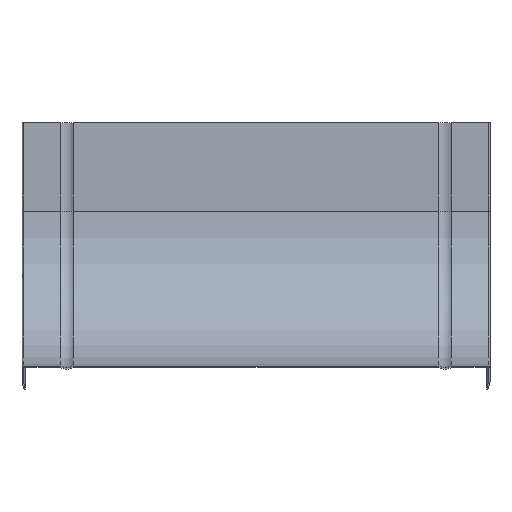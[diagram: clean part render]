
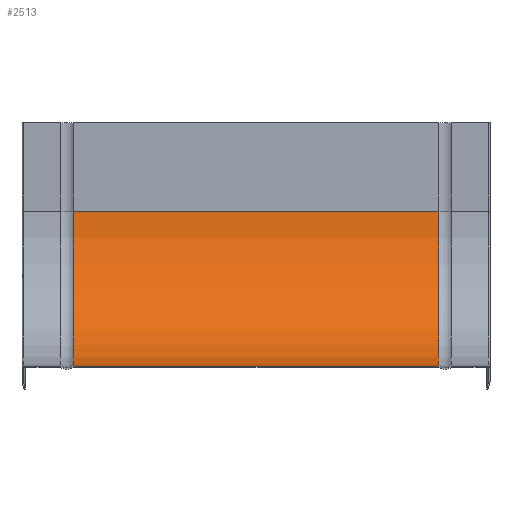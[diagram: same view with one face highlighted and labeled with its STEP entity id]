
A CAD part, front view. The second image highlights one B-rep face of the part: STEP entity #2513.
In plain terms, the highlighted cylindrical face has radius 100 mm (diameter 200 mm), a partial arc.
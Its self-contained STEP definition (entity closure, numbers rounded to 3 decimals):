
#27 = DIRECTION ( 'NONE',  ( -1., 0., 0. ) ) ;
#43 = CARTESIAN_POINT ( 'NONE',  ( -118., -100., -157. ) ) ;
#63 = DIRECTION ( 'NONE',  ( 0., 0., 1. ) ) ;
#67 = CARTESIAN_POINT ( 'NONE',  ( -118., -100., -57. ) ) ;
#160 = CARTESIAN_POINT ( 'NONE',  ( -118., 0., -57. ) ) ;
#177 = CARTESIAN_POINT ( 'NONE',  ( 118., 0., -57. ) ) ;
#179 = AXIS2_PLACEMENT_3D ( 'NONE', #1273, #2323, #1027 ) ;
#241 = LINE ( 'NONE', #43, #2317 ) ;
#248 = EDGE_CURVE ( 'NONE', #1934, #2014, #1094, .T. ) ;
#548 = CARTESIAN_POINT ( 'NONE',  ( -118., 0., -57. ) ) ;
#570 = CIRCLE ( 'NONE', #2020, 100. ) ;
#632 = DIRECTION ( 'NONE',  ( 0., 0., 1. ) ) ;
#653 = DIRECTION ( 'NONE',  ( -1., 0., 0. ) ) ;
#702 = ORIENTED_EDGE ( 'NONE', *, *, #1473, .F. ) ;
#798 = DIRECTION ( 'NONE',  ( 1., 0., 0. ) ) ;
#813 = FACE_OUTER_BOUND ( 'NONE', #1248, .T. ) ;
#1027 = DIRECTION ( 'NONE',  ( 0., 0., 1. ) ) ;
#1094 = CIRCLE ( 'NONE', #179, 100. ) ;
#1151 = LINE ( 'NONE', #548, #2054 ) ;
#1202 = CYLINDRICAL_SURFACE ( 'NONE', #1855, 100. ) ;
#1248 = EDGE_LOOP ( 'NONE', ( #702, #1379, #1991, #1607 ) ) ;
#1273 = CARTESIAN_POINT ( 'NONE',  ( 118., -100., -57. ) ) ;
#1355 = DIRECTION ( 'NONE',  ( 1., 0., 0. ) ) ;
#1379 = ORIENTED_EDGE ( 'NONE', *, *, #2013, .T. ) ;
#1473 = EDGE_CURVE ( 'NONE', #1522, #1934, #1151, .T. ) ;
#1522 = VERTEX_POINT ( 'NONE', #160 ) ;
#1607 = ORIENTED_EDGE ( 'NONE', *, *, #248, .F. ) ;
#1665 = EDGE_CURVE ( 'NONE', #1990, #2014, #241, .T. ) ;
#1680 = CARTESIAN_POINT ( 'NONE',  ( 0., -100., -57. ) ) ;
#1855 = AXIS2_PLACEMENT_3D ( 'NONE', #1680, #653, #63 ) ;
#1934 = VERTEX_POINT ( 'NONE', #177 ) ;
#1990 = VERTEX_POINT ( 'NONE', #2357 ) ;
#1991 = ORIENTED_EDGE ( 'NONE', *, *, #1665, .T. ) ;
#2013 = EDGE_CURVE ( 'NONE', #1522, #1990, #570, .T. ) ;
#2014 = VERTEX_POINT ( 'NONE', #2079 ) ;
#2020 = AXIS2_PLACEMENT_3D ( 'NONE', #67, #27, #632 ) ;
#2054 = VECTOR ( 'NONE', #1355, 1000. ) ;
#2079 = CARTESIAN_POINT ( 'NONE',  ( 118., -100., -157. ) ) ;
#2317 = VECTOR ( 'NONE', #798, 1000. ) ;
#2323 = DIRECTION ( 'NONE',  ( -1., 0., 0. ) ) ;
#2357 = CARTESIAN_POINT ( 'NONE',  ( -118., -100., -157. ) ) ;
#2513 = ADVANCED_FACE ( 'NONE', ( #813 ), #1202, .F. ) ;
